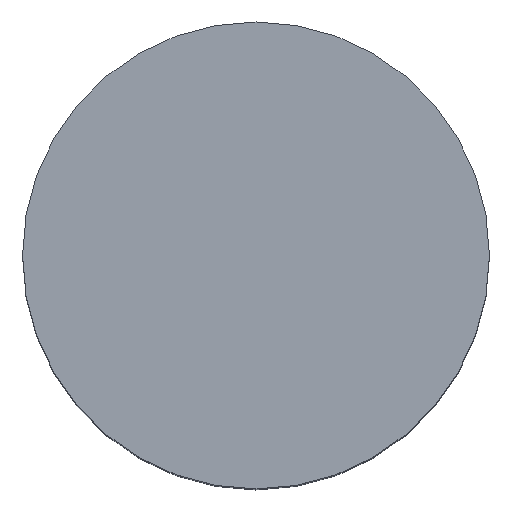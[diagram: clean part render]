
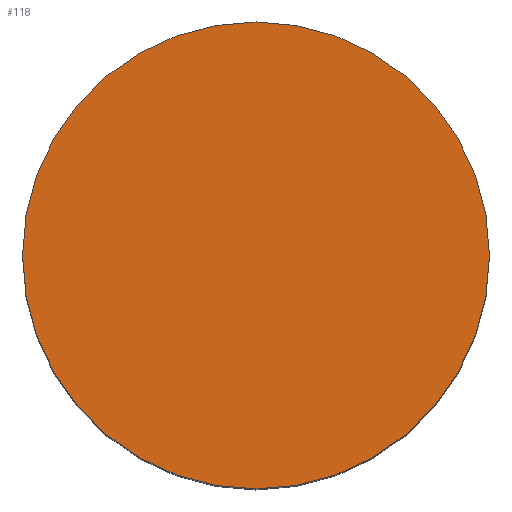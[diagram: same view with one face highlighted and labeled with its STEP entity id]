
A CAD part, top view. The second image highlights one B-rep face of the part: STEP entity #118.
In plain terms, the highlighted planar face has unit normal (0, 0, 1).
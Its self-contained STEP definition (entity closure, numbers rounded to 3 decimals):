
#118=ADVANCED_FACE('',(#128),#120,.T.);
#120=PLANE('',#215);
#128=FACE_OUTER_BOUND('',#136,.T.);
#136=EDGE_LOOP('',(#163,#164));
#163=ORIENTED_EDGE('',*,*,#186,.T.);
#164=ORIENTED_EDGE('',*,*,#184,.T.);
#171=VERTEX_POINT('',#281);
#172=VERTEX_POINT('',#283);
#184=EDGE_CURVE('',#172,#171,#195,.T.);
#186=EDGE_CURVE('',#171,#172,#196,.T.);
#195=CIRCLE('',#211,40.);
#196=CIRCLE('',#213,40.);
#211=AXIS2_PLACEMENT_3D('',#282,#247,#248);
#213=AXIS2_PLACEMENT_3D('',#286,#252,#253);
#215=AXIS2_PLACEMENT_3D('',#288,#256,#257);
#247=DIRECTION('',(0.,0.,1.));
#248=DIRECTION('',(0.,-1.,0.));
#252=DIRECTION('',(0.,0.,1.));
#253=DIRECTION('',(0.,1.,0.));
#256=DIRECTION('',(0.,0.,1.));
#257=DIRECTION('',(0.,1.,0.));
#281=CARTESIAN_POINT('',(-40.,0.,103.));
#282=CARTESIAN_POINT('',(0.,0.,103.));
#283=CARTESIAN_POINT('',(40.,0.,103.));
#286=CARTESIAN_POINT('',(0.,0.,103.));
#288=CARTESIAN_POINT('',(0.,0.,103.));
